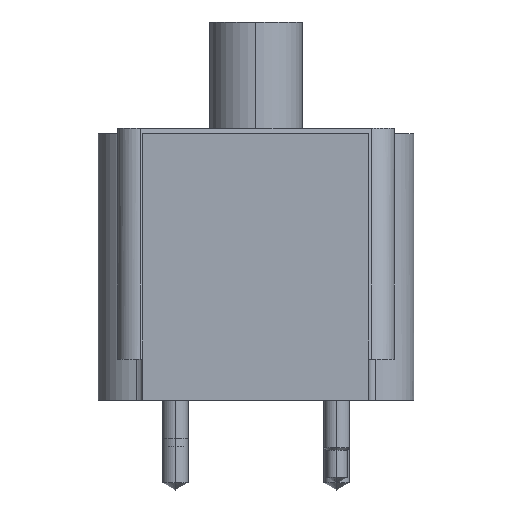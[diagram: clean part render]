
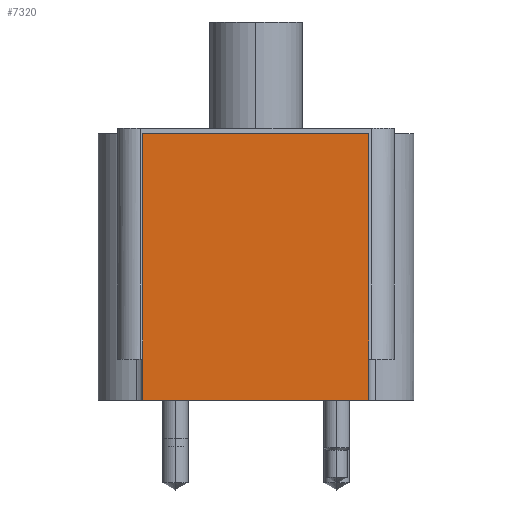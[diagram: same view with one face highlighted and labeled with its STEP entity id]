
A CAD part, left-side view. The second image highlights one B-rep face of the part: STEP entity #7320.
In plain terms, the highlighted planar face has unit normal (-1, 0, 0).
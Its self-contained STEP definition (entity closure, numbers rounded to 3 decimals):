
#6952=CARTESIAN_POINT('',(-84.201,34.988,82.55));
#6953=VERTEX_POINT('',#6952);
#6960=CARTESIAN_POINT('',(-84.201,-34.988,82.55));
#6961=VERTEX_POINT('',#6960);
#6962=CARTESIAN_POINT('',(-84.201,0.0,82.55));
#6963=DIRECTION('',(0.0,1.0,0.0));
#6964=VECTOR('',#6963,1.0);
#6965=LINE('',#6962,#6964);
#6966=EDGE_CURVE('',#6961,#6953,#6965,.T.);
#7290=CARTESIAN_POINT('',(-84.201,34.988,0.0));
#7291=VERTEX_POINT('',#7290);
#7292=CARTESIAN_POINT('',(-84.201,34.988,0.0));
#7293=DIRECTION('',(0.0,0.0,1.0));
#7294=VECTOR('',#7293,1.0);
#7295=LINE('',#7292,#7294);
#7296=EDGE_CURVE('',#7291,#6953,#7295,.T.);
#7297=ORIENTED_EDGE('',*,*,#7296,.F.);
#7298=CARTESIAN_POINT('',(-84.201,-34.988,0.0));
#7299=VERTEX_POINT('',#7298);
#7300=CARTESIAN_POINT('',(-84.201,0.0,0.0));
#7301=DIRECTION('',(0.0,-1.0,0.0));
#7302=VECTOR('',#7301,1.0);
#7303=LINE('',#7300,#7302);
#7304=EDGE_CURVE('',#7291,#7299,#7303,.T.);
#7305=ORIENTED_EDGE('',*,*,#7304,.T.);
#7306=CARTESIAN_POINT('',(-84.201,-34.988,0.0));
#7307=DIRECTION('',(0.0,0.0,-1.0));
#7308=VECTOR('',#7307,1.0);
#7309=LINE('',#7306,#7308);
#7310=EDGE_CURVE('',#6961,#7299,#7309,.T.);
#7311=ORIENTED_EDGE('',*,*,#7310,.F.);
#7312=ORIENTED_EDGE('',*,*,#6966,.T.);
#7313=EDGE_LOOP('',(#7297,#7305,#7311,#7312));
#7314=FACE_OUTER_BOUND('',#7313,.T.);
#7315=CARTESIAN_POINT('',(-84.201,0.0,0.0));
#7316=DIRECTION('',(-1.0,0.0,-0.0));
#7317=DIRECTION('',(-0.0,0.0,1.0));
#7318=AXIS2_PLACEMENT_3D('',#7315,#7316,#7317);
#7319=PLANE('',#7318);
#7320=ADVANCED_FACE('',(#7314),#7319,.T.);
